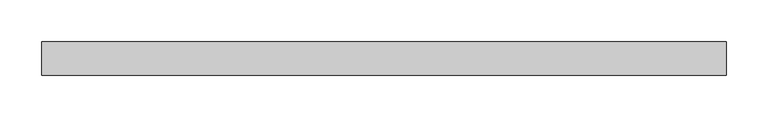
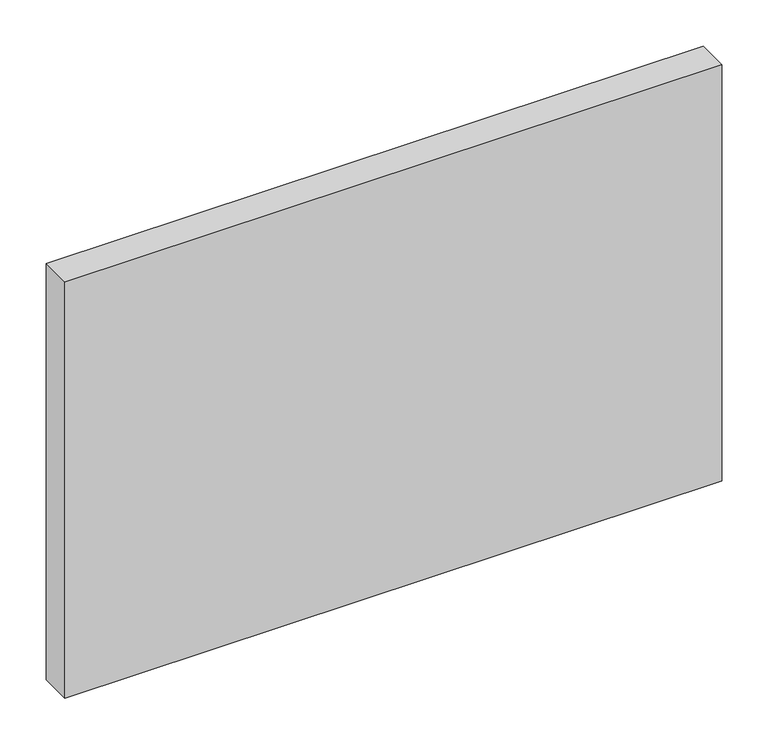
"""IFC4 building model written with IfcOpenShell, lengths in millimetres: plate geometry, Panneau système : Vitré."""

from ifc_helpers import new_model, si_unit, origin, origin_with_axes, place, context, project, spatial, polyline, outline, extrude, source, transform, mapped, element, save


def plate_16d32925(model_context):
    return source(origin(), model_context, "Body", "SweptSolid", [
        extrude(outline(polyline([(410.2461392, 5.0), (-410.2461392, 5.0), (-410.2461392, 45.0), (410.2461392, 45.0), (410.2461392, 5.0)])), origin_with_axes(), (0.0, 0.0, 1.0), 550.0),
    ])


if __name__ == "__main__":
    model = new_model("IFC4")
    model_context = context("Model", 3, world=origin())
    ifc_project = project(units=[si_unit("LENGTHUNIT", "METRE", prefix="MILLI")], contexts=[model_context])
    site = spatial("IfcSite", under=ifc_project)
    building = spatial("IfcBuilding", under=site)
    placement = place(None, origin())
    plate_shape = plate_16d32925(model_context)
    element("IfcPlate", 1, ObjectType="Panneau système : Vitré", at=placement, inside=building, context=model_context, shape_type="MappedRepresentation", body=[
        mapped(plate_shape, transform((0.0, 0.0, 0.0), x_axis=(1.0, 0.0, 0.0), y_axis=(0.0, 1.0, 0.0), z_axis=(0.0, 0.0, 1.0))),
    ])
    save(model, "model.ifc")
